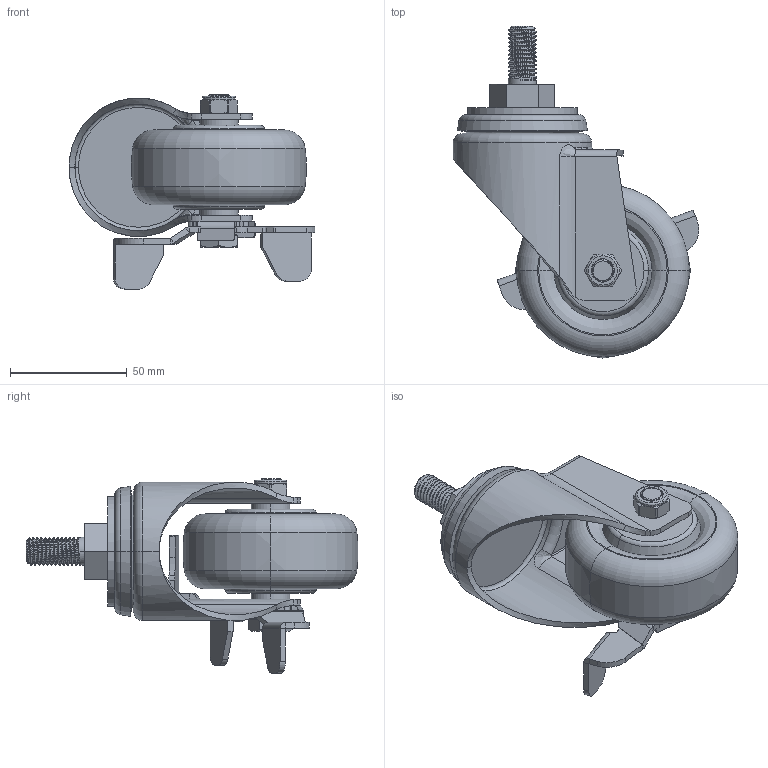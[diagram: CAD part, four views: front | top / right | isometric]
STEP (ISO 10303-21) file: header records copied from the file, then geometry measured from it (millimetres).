
FILE_DESCRIPTION((''),'2;1');
FILE_NAME('50113-503-86_ASM','2020-01-05T',('L'),(''),'PRO/ENGINEER BY PARAMETRIC TECHNOLOGY CORPORATION, 2010280','PRO/ENGINEER BY PARAMETRIC TECHNOLOGY CORPORATION, 2010280','');
FILE_SCHEMA(('CONFIG_CONTROL_DESIGN'));
Length unit declared in the file: millimetre
Products named in the file (7): 50143C; 503-986; 502-33; 570-34; 503-15; 500-14; 50113-503-86_ASM
Assembly tree (6 placements, depth 2):
  50113-503-86_ASM
    50143C
    503-986
    502-33
    570-34
    503-15
    500-14
Bounding box: 105.25 x 142.14 x 83.14 mm (x, y, z)
Volume: 205980.4 mm3; surface area: 55003.3 mm2
Topology: 6 solids, 6 shells, 435 faces, 1058 edges, 649 vertices
Faces by surface type: cylinder 169, plane 143, bspline 66, cone 33, torus 24
Entity records: 24022 total; most frequent: CARTESIAN_POINT 14265, ORIENTED_EDGE 2116, DIRECTION 1799, EDGE_CURVE 1058, AXIS2_PLACEMENT_3D 656, VERTEX_POINT 649, VECTOR 487, LINE 487
